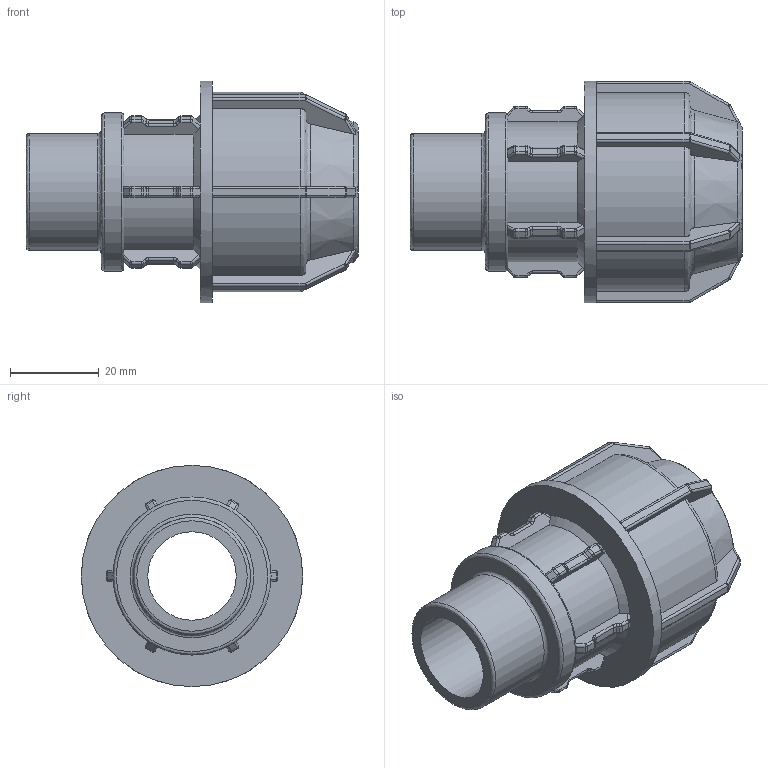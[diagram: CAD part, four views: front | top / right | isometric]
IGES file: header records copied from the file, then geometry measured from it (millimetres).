
Global section: file name: 140200025007.ipt; native system: Autodesk Inventor 2015; preprocessor: unknown; author: KIM; date: 20180409.130931; units: millimetre
Bounding box: 75 x 50 x 50 mm (x, y, z)
Volume: 47049.4 mm3; surface area: 18790.9 mm2
Topology: 1 solids, 1 shells, 471 faces, 1184 edges, 708 vertices
Faces by surface type: cylinder 171, plane 159, revolution 129, cone 12
Full cylindrical faces by diameter (mm): 26.441 x1, 35.695 x1, 50 x1
